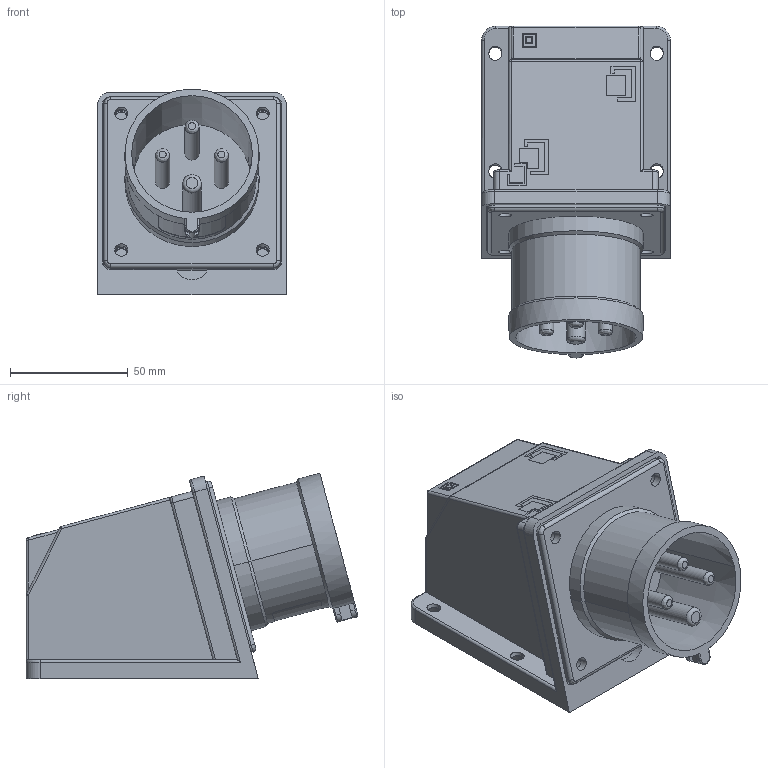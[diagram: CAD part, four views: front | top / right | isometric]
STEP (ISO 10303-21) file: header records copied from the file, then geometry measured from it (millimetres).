
FILE_DESCRIPTION(('FreeCAD Model'),'2;1');
FILE_NAME('Open CASCADE Shape Model','2026-02-04T11:05:21',(''),(''), 'Open CASCADE STEP processor 7.8','FreeCAD','Unknown');
FILE_SCHEMA(('AUTOMOTIVE_DESIGN { 1 0 10303 214 1 1 1 1 }'));
Length unit declared in the file: millimetre
Products named in the file (9): TL3M32443; Base interna; Estrutura corpo; Tomada; Pino L3; Pino Terra; Pino L2; Pino L1; Terminais
Assembly tree (8 placements, depth 2):
  TL3M32443
    Base interna
    Estrutura corpo
    Tomada
    Pino L3
    Pino Terra
    Pino L2
    Pino L1
    Terminais
Bounding box: 80 x 140.8 x 87.13 mm (x, y, z)
Volume: 141602.5 mm3; surface area: 115946 mm2
Topology: 8 solids, 8 shells, 765 faces, 1976 edges, 1281 vertices
Faces by surface type: plane 431, cylinder 223, bspline 61, torus 26, cone 14, sphere 10
Full cylindrical faces by diameter (mm): 6 x3, 8 x1
Entity records: 31763 total; most frequent: CARTESIAN_POINT 12939, ORIENTED_EDGE 3952, DIRECTION 3695, EDGE_CURVE 1976, VERTEX_POINT 1281, LINE 1259, VECTOR 1259, AXIS2_PLACEMENT_3D 1218
